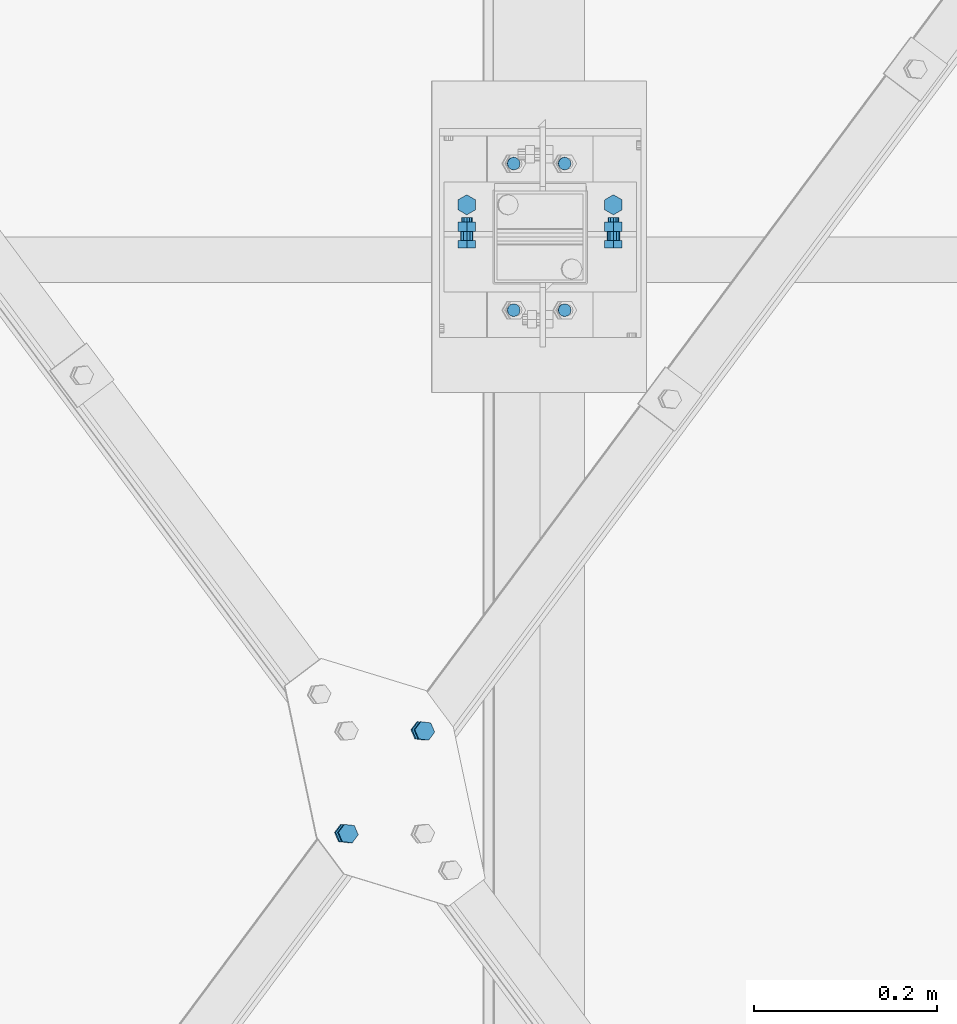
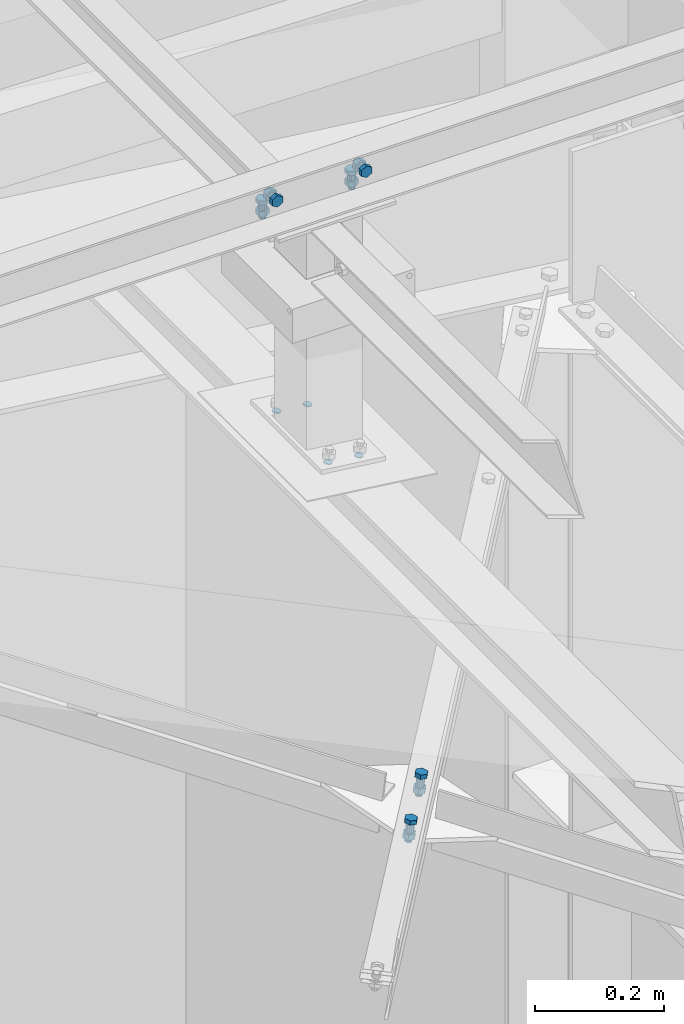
# One storey, part 386 of 3134: 4 mechanical fasteners, 3 elements without a shape of their own.
"""IFC2X3 building model written with IfcOpenShell, lengths in millimetres."""

from ifc_helpers import new_model, si_unit, frame, origin_with_axes, place, context, subcontext, project, spatial, faceted_brep, source, transform, mapped, material, type_object, element, aggregate, save


model = new_model("IFC2X3")

# Units and contexts
model_context = context("Model", 3, precision=1e-05, world=origin_with_axes())
body_context = subcontext(model_context, "Body", "Model", "MODEL_VIEW")
ifc_project = project(units=[si_unit("LENGTHUNIT", "METRE", prefix="MILLI"), si_unit("AREAUNIT", "SQUARE_METRE"), si_unit("VOLUMEUNIT", "CUBIC_METRE"), si_unit("MASSUNIT", "GRAM", prefix="KILO"), si_unit("TIMEUNIT", "SECOND"), si_unit("PLANEANGLEUNIT", "RADIAN"), si_unit("SOLIDANGLEUNIT", "STERADIAN"), si_unit("THERMODYNAMICTEMPERATUREUNIT", "DEGREE_CELSIUS"), si_unit("LUMINOUSINTENSITYUNIT", "LUMEN")], contexts=[model_context])

# Site, building, storey
site_placement = place(None, origin_with_axes())
site = spatial("IfcSite", under=ifc_project, at=site_placement, CompositionType="ELEMENT")
building_placement = place(site_placement, origin_with_axes())
building = spatial("IfcBuilding", under=site, at=building_placement, Name="Undefined", CompositionType="ELEMENT")
storey_placement = place(building_placement, origin_with_axes())
storey = spatial("IfcBuildingStorey", under=building, at=storey_placement, Name="Undefined", CompositionType="ELEMENT", Elevation=0.0)

# Assembly, mechanical fastener
assembly_1_placement = place(storey_placement, origin_with_axes())
assembly_1 = element("IfcElementAssembly", 1, at=assembly_1_placement, inside=storey, AssemblyPlace="NOTDEFINED", PredefinedType="RIGID_FRAME")
ifc_material = material(Name="8.8")
mechanical_fastener_type = type_object("IfcMechanicalFastenerType", Name="Bolt assembly")
shared_shape_1 = source(origin_with_axes(), body_context, "Body", "Brep", [
    faceted_brep([(10.9696551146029, -14.0, 0.0), (5.48482755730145, -14.0, 9.5), (-5.48482755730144, -14.0, 9.5), (-10.9696551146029, -14.0, 1.34339530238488e-15), (-5.48482755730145, -14.0, -9.5), (5.48482755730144, -14.0, -9.50000000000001), (5.48482755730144, -6.0, -9.50000000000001), (-5.48482755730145, -6.0, -9.5), (-10.9696551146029, -6.0, 1.34339530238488e-15), (-5.48482755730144, -6.0, 9.5), (5.48482755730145, -6.0, 9.5), (10.9696551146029, -6.0, 0.0), (6.0, -6.0, 0.0), (5.19615242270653, -6.0, 3.00000000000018), (2.99999999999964, -6.0, 5.19615242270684), (-6.21801588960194e-13, -6.0, 6.0), (-3.00000000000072, -6.0, 5.19615242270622), (-5.19615242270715, -6.0, 2.9999999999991), (-6.0, -6.0, -1.24360317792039e-12), (-5.19615242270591, -6.0, -3.00000000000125), (-2.99999999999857, -6.0, -5.19615242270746), (1.85874342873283e-12, -6.0, -6.0), (3.00000000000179, -6.0, -5.1961524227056), (5.19615242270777, -6.0, -2.99999999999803), (5.19615242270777, 24.0, -2.99999999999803), (3.00000000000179, 24.0, -5.1961524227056), (1.85874342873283e-12, 24.0, -6.0), (-2.99999999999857, 24.0, -5.19615242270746), (-5.19615242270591, 24.0, -3.00000000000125), (-6.0, 24.0, -1.24360317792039e-12), (-5.19615242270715, 24.0, 2.9999999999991), (-3.00000000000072, 24.0, 5.19615242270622), (-6.21801588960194e-13, 24.0, 6.0), (2.99999999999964, 24.0, 5.19615242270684), (5.19615242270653, 24.0, 3.00000000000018), (6.0, 24.0, 0.0), (10.9696551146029, 6.00000000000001, 0.0), (5.48482755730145, 6.00000000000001, 9.5), (-5.48482755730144, 6.00000000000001, 9.5), (-10.9696551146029, 6.00000000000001, 1.34339530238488e-15), (-5.48482755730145, 6.00000000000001, -9.5), (5.48482755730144, 6.00000000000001, -9.50000000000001), (5.48482755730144, 16.0, -9.50000000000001), (-5.48482755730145, 16.0, -9.5), (-10.9696551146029, 16.0, 1.34339530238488e-15), (-5.48482755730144, 16.0, 9.5), (5.48482755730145, 16.0, 9.5), (10.9696551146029, 16.0, 0.0)], [[[0, 1, 2, 3, 4, 5]], [[6, 7, 8, 9, 10, 11]], [[0, 11, 10, 1]], [[1, 10, 9, 2]], [[2, 9, 8, 3]], [[3, 8, 7, 4]], [[4, 7, 6, 5]], [[5, 6, 11, 0]], [[12, 13, 14, 15, 16, 17, 18, 19, 20, 21, 22, 23]], [[24, 25, 26, 27, 28, 29, 30, 31, 32, 33, 34, 35]], [[12, 35, 34, 13]], [[13, 34, 33, 14]], [[14, 33, 32, 15]], [[15, 32, 31, 16]], [[16, 31, 30, 17]], [[17, 30, 29, 18]], [[18, 29, 28, 19]], [[19, 28, 27, 20]], [[20, 27, 26, 21]], [[21, 26, 25, 22]], [[22, 25, 24, 23]], [[23, 24, 35, 12]], [[36, 37, 38, 39, 40, 41]], [[42, 43, 44, 45, 46, 47]], [[36, 47, 46, 37]], [[37, 46, 45, 38]], [[38, 45, 44, 39]], [[39, 44, 43, 40]], [[40, 43, 42, 41]], [[41, 42, 47, 36]]]),
    faceted_brep([(7.0, -0.1, 0.0), (6.06217782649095, -0.1, 3.50000000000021), (3.49999999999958, -0.1, 6.06217782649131), (-7.25435187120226e-13, -0.1, 7.0), (-3.50000000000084, -0.1, 6.06217782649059), (-6.06217782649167, -0.1, 3.49999999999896), (-7.0, -0.1, -1.45087037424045e-12), (-6.06217782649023, -0.1, -3.50000000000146), (-3.49999999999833, -0.1, -6.06217782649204), (2.1685340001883e-12, -0.1, -7.0), (3.50000000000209, -0.1, -6.06217782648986), (6.0621778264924, -0.1, -3.4999999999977), (6.0621778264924, 6.00000000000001, -3.4999999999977), (3.50000000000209, 6.00000000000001, -6.06217782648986), (2.1685340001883e-12, 6.00000000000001, -7.0), (-3.49999999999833, 6.00000000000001, -6.06217782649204), (-6.06217782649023, 6.00000000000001, -3.50000000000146), (-7.0, 6.00000000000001, -1.45087037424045e-12), (-6.06217782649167, 6.00000000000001, 3.49999999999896), (-3.50000000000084, 6.00000000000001, 6.06217782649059), (-7.25435187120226e-13, 6.00000000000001, 7.0), (3.49999999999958, 6.00000000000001, 6.06217782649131), (6.06217782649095, 6.00000000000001, 3.50000000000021), (7.0, 6.00000000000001, 0.0), (7.0, -5.9, 0.0), (6.06217782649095, -5.9, 3.50000000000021), (3.49999999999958, -5.9, 6.06217782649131), (-7.25435187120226e-13, -5.9, 7.0), (-3.50000000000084, -5.9, 6.06217782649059), (-6.06217782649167, -5.9, 3.49999999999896), (-7.0, -5.9, -1.45087037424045e-12), (-6.06217782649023, -5.9, -3.50000000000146), (-3.49999999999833, -5.9, -6.06217782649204), (2.1685340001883e-12, -5.9, -7.0), (3.50000000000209, -5.9, -6.06217782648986), (6.0621778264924, -5.9, -3.4999999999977), (6.0621778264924, 0.0999999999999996, -3.4999999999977), (3.50000000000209, 0.0999999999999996, -6.06217782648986), (2.1685340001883e-12, 0.0999999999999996, -7.0), (-3.49999999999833, 0.0999999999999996, -6.06217782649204), (-6.06217782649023, 0.0999999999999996, -3.50000000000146), (-7.0, 0.0999999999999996, -1.45087037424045e-12), (-6.06217782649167, 0.0999999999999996, 3.49999999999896), (-3.50000000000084, 0.0999999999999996, 6.06217782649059), (-7.25435187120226e-13, 0.0999999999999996, 7.0), (3.49999999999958, 0.0999999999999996, 6.06217782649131), (6.06217782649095, 0.0999999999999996, 3.50000000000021), (7.0, 0.0999999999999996, 0.0)], [[[0, 1, 2, 3, 4, 5, 6, 7, 8, 9, 10, 11]], [[12, 13, 14, 15, 16, 17, 18, 19, 20, 21, 22, 23]], [[0, 23, 22, 1]], [[1, 22, 21, 2]], [[2, 21, 20, 3]], [[3, 20, 19, 4]], [[4, 19, 18, 5]], [[5, 18, 17, 6]], [[6, 17, 16, 7]], [[7, 16, 15, 8]], [[8, 15, 14, 9]], [[9, 14, 13, 10]], [[10, 13, 12, 11]], [[11, 12, 23, 0]], [[24, 25, 26, 27, 28, 29, 30, 31, 32, 33, 34, 35]], [[36, 37, 38, 39, 40, 41, 42, 43, 44, 45, 46, 47]], [[24, 47, 46, 25]], [[25, 46, 45, 26]], [[26, 45, 44, 27]], [[27, 44, 43, 28]], [[28, 43, 42, 29]], [[29, 42, 41, 30]], [[30, 41, 40, 31]], [[31, 40, 39, 32]], [[32, 39, 38, 33]], [[33, 38, 37, 34]], [[34, 37, 36, 35]], [[35, 36, 47, 24]]]),
])
mechanical_fastener_1_placement = place(assembly_1_placement, frame((70902.0, 26580.0, 5850.0), z_axis=(1.0, 0.0, 0.0), x_axis=(0.0, -1.0, 0.0)))
mechanical_fastener_1 = element("IfcMechanicalFastener", 2, at=mechanical_fastener_1_placement, type_object=mechanical_fastener_type, material=ifc_material, Name="Bolt assembly", NominalDiameter=12.0, NominalLength=30.0, context=body_context, shape_type="MappedRepresentation", body=[
    mapped(shared_shape_1, transform((0.0, -5.32963895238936e-10, -79.9999999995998))),
    mapped(shared_shape_1, transform((0.0, 5.3114490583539e-10, 79.9999999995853))),
])

assembly_2_placement = place(storey_placement, origin_with_axes())
assembly_2 = element("IfcElementAssembly", 3, at=assembly_2_placement, inside=storey, AssemblyPlace="NOTDEFINED", PredefinedType="RIGID_FRAME")
shared_shape_2 = source(origin_with_axes(), body_context, "Body", "Brep", [
    faceted_brep([(7.0, 13.0000253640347, 0.0), (6.06217782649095, 13.0000253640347, 3.50000000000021), (3.49999999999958, 13.0000253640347, 6.06217782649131), (-7.25435187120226e-13, 13.0000253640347, 7.0), (-3.50000000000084, 13.0000253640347, 6.06217782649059), (-6.06217782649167, 13.0000253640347, 3.49999999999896), (-7.0, 13.0000253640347, -1.45087037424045e-12), (-6.06217782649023, 13.0000253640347, -3.50000000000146), (-3.49999999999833, 13.0000253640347, -6.06217782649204), (2.1685340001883e-12, 13.0000253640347, -7.0), (3.50000000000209, 13.0000253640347, -6.06217782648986), (6.0621778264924, 13.0000253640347, -3.4999999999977), (6.0621778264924, 15.0999999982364, -3.4999999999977), (3.50000000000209, 15.0999999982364, -6.06217782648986), (2.1685340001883e-12, 15.0999999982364, -7.0), (-3.49999999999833, 15.0999999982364, -6.06217782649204), (-6.06217782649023, 15.0999999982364, -3.50000000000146), (-7.0, 15.0999999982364, -1.45087037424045e-12), (-6.06217782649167, 15.0999999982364, 3.49999999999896), (-3.50000000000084, 15.0999999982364, 6.06217782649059), (-7.25435187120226e-13, 15.0999999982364, 7.0), (3.49999999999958, 15.0999999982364, 6.06217782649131), (6.06217782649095, 15.0999999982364, 3.50000000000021), (7.0, 15.0999999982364, 0.0)], [[[0, 1, 2, 3, 4, 5, 6, 7, 8, 9, 10, 11]], [[12, 13, 14, 15, 16, 17, 18, 19, 20, 21, 22, 23]], [[0, 23, 22, 1]], [[1, 22, 21, 2]], [[2, 21, 20, 3]], [[3, 20, 19, 4]], [[4, 19, 18, 5]], [[5, 18, 17, 6]], [[6, 17, 16, 7]], [[7, 16, 15, 8]], [[8, 15, 14, 9]], [[9, 14, 13, 10]], [[10, 13, 12, 11]], [[11, 12, 23, 0]]]),
])
mechanical_fastener_2_placement = place(assembly_2_placement, frame((70871.4175926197, 26544.9983647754, 5400.15862565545), z_axis=(0.0, -1.0, 0.0), x_axis=(0.992631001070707, 0.0, -0.121176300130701)))
mechanical_fastener_2 = element("IfcMechanicalFastener", 4, at=mechanical_fastener_2_placement, type_object=mechanical_fastener_type, material=ifc_material, Name="Bolt assembly", NominalDiameter=12.0, NominalLength=2.0, context=body_context, shape_type="MappedRepresentation", body=[
    mapped(shared_shape_2, transform((0.0, -5.32963895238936e-10, -79.9999999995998))),
    mapped(shared_shape_2, transform((55.9999999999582, 4.54747350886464e-13, -80.0))),
    mapped(shared_shape_2, transform((0.0, 5.3114490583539e-10, 79.9999999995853))),
    mapped(shared_shape_2, transform((55.9999999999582, 4.54747350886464e-13, 80.0))),
])
aggregate(assembly_2, [mechanical_fastener_2])

# Mechanical fastener
shared_shape_3 = source(origin_with_axes(), body_context, "Body", "Brep", [
    faceted_brep([(10.9696551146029, -12.0, 0.0), (5.48482755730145, -12.0, 9.5), (-5.48482755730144, -12.0, 9.5), (-10.9696551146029, -12.0, 1.34339530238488e-15), (-5.48482755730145, -12.0, -9.5), (5.48482755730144, -12.0, -9.50000000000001), (5.48482755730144, -4.0, -9.50000000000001), (-5.48482755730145, -4.0, -9.5), (-10.9696551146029, -4.0, 1.34339530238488e-15), (-5.48482755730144, -4.0, 9.5), (5.48482755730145, -4.0, 9.5), (10.9696551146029, -4.0, 0.0), (6.0, -4.0, 0.0), (5.19615242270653, -4.0, 3.00000000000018), (2.99999999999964, -4.0, 5.19615242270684), (-6.21801588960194e-13, -4.0, 6.0), (-3.00000000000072, -4.0, 5.19615242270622), (-5.19615242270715, -4.0, 2.9999999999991), (-6.0, -4.0, -1.24360317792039e-12), (-5.19615242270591, -4.0, -3.00000000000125), (-2.99999999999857, -4.0, -5.19615242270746), (1.85874342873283e-12, -4.0, -6.0), (3.00000000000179, -4.0, -5.1961524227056), (5.19615242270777, -4.0, -2.99999999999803), (5.19615242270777, 21.0, -2.99999999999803), (3.00000000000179, 21.0, -5.1961524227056), (1.85874342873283e-12, 21.0, -6.0), (-2.99999999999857, 21.0, -5.19615242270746), (-5.19615242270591, 21.0, -3.00000000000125), (-6.0, 21.0, -1.24360317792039e-12), (-5.19615242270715, 21.0, 2.9999999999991), (-3.00000000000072, 21.0, 5.19615242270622), (-6.21801588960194e-13, 21.0, 6.0), (2.99999999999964, 21.0, 5.19615242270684), (5.19615242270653, 21.0, 3.00000000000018), (6.0, 21.0, 0.0), (10.9696551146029, 6.00000000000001, 0.0), (5.48482755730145, 6.00000000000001, 9.5), (-5.48482755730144, 6.00000000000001, 9.5), (-10.9696551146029, 6.00000000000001, 1.34339530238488e-15), (-5.48482755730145, 6.00000000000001, -9.5), (5.48482755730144, 6.00000000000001, -9.50000000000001), (5.48482755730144, 16.0, -9.50000000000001), (-5.48482755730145, 16.0, -9.5), (-10.9696551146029, 16.0, 1.34339530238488e-15), (-5.48482755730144, 16.0, 9.5), (5.48482755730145, 16.0, 9.5), (10.9696551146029, 16.0, 0.0)], [[[0, 1, 2, 3, 4, 5]], [[6, 7, 8, 9, 10, 11]], [[0, 11, 10, 1]], [[1, 10, 9, 2]], [[2, 9, 8, 3]], [[3, 8, 7, 4]], [[4, 7, 6, 5]], [[5, 6, 11, 0]], [[12, 13, 14, 15, 16, 17, 18, 19, 20, 21, 22, 23]], [[24, 25, 26, 27, 28, 29, 30, 31, 32, 33, 34, 35]], [[12, 35, 34, 13]], [[13, 34, 33, 14]], [[14, 33, 32, 15]], [[15, 32, 31, 16]], [[16, 31, 30, 17]], [[17, 30, 29, 18]], [[18, 29, 28, 19]], [[19, 28, 27, 20]], [[20, 27, 26, 21]], [[21, 26, 25, 22]], [[22, 25, 24, 23]], [[23, 24, 35, 12]], [[36, 37, 38, 39, 40, 41]], [[42, 43, 44, 45, 46, 47]], [[36, 47, 46, 37]], [[37, 46, 45, 38]], [[38, 45, 44, 39]], [[39, 44, 43, 40]], [[40, 43, 42, 41]], [[41, 42, 47, 36]]]),
    faceted_brep([(7.0, -3.9, 0.0), (6.06217782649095, -3.9, 3.50000000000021), (3.49999999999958, -3.9, 6.06217782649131), (-7.25435187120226e-13, -3.9, 7.0), (-3.50000000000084, -3.9, 6.06217782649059), (-6.06217782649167, -3.9, 3.49999999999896), (-7.0, -3.9, -1.45087037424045e-12), (-6.06217782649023, -3.9, -3.50000000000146), (-3.49999999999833, -3.9, -6.06217782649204), (2.1685340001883e-12, -3.9, -7.0), (3.50000000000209, -3.9, -6.06217782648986), (6.0621778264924, -3.9, -3.4999999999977), (6.0621778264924, 0.0999999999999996, -3.4999999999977), (3.50000000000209, 0.0999999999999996, -6.06217782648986), (2.1685340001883e-12, 0.0999999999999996, -7.0), (-3.49999999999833, 0.0999999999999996, -6.06217782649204), (-6.06217782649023, 0.0999999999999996, -3.50000000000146), (-7.0, 0.0999999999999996, -1.45087037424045e-12), (-6.06217782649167, 0.0999999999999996, 3.49999999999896), (-3.50000000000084, 0.0999999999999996, 6.06217782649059), (-7.25435187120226e-13, 0.0999999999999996, 7.0), (3.49999999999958, 0.0999999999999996, 6.06217782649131), (6.06217782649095, 0.0999999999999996, 3.50000000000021), (7.0, 0.0999999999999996, 0.0), (7.0, -0.1, 0.0), (6.06217782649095, -0.1, 3.50000000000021), (3.49999999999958, -0.1, 6.06217782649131), (-7.25435187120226e-13, -0.1, 7.0), (-3.50000000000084, -0.1, 6.06217782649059), (-6.06217782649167, -0.1, 3.49999999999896), (-7.0, -0.1, -1.45087037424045e-12), (-6.06217782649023, -0.1, -3.50000000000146), (-3.49999999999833, -0.1, -6.06217782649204), (2.1685340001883e-12, -0.1, -7.0), (3.50000000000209, -0.1, -6.06217782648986), (6.0621778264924, -0.1, -3.4999999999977), (6.0621778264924, 6.00000000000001, -3.4999999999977), (3.50000000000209, 6.00000000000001, -6.06217782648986), (2.1685340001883e-12, 6.00000000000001, -7.0), (-3.49999999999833, 6.00000000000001, -6.06217782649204), (-6.06217782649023, 6.00000000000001, -3.50000000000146), (-7.0, 6.00000000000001, -1.45087037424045e-12), (-6.06217782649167, 6.00000000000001, 3.49999999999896), (-3.50000000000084, 6.00000000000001, 6.06217782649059), (-7.25435187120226e-13, 6.00000000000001, 7.0), (3.49999999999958, 6.00000000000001, 6.06217782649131), (6.06217782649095, 6.00000000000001, 3.50000000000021), (7.0, 6.00000000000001, 0.0)], [[[0, 1, 2, 3, 4, 5, 6, 7, 8, 9, 10, 11]], [[12, 13, 14, 15, 16, 17, 18, 19, 20, 21, 22, 23]], [[0, 23, 22, 1]], [[1, 22, 21, 2]], [[2, 21, 20, 3]], [[3, 20, 19, 4]], [[4, 19, 18, 5]], [[5, 18, 17, 6]], [[6, 17, 16, 7]], [[7, 16, 15, 8]], [[8, 15, 14, 9]], [[9, 14, 13, 10]], [[10, 13, 12, 11]], [[11, 12, 23, 0]], [[24, 25, 26, 27, 28, 29, 30, 31, 32, 33, 34, 35]], [[36, 37, 38, 39, 40, 41, 42, 43, 44, 45, 46, 47]], [[24, 47, 46, 25]], [[25, 46, 45, 26]], [[26, 45, 44, 27]], [[27, 44, 43, 28]], [[28, 43, 42, 29]], [[29, 42, 41, 30]], [[30, 41, 40, 31]], [[31, 40, 39, 32]], [[32, 39, 38, 33]], [[33, 38, 37, 34]], [[34, 37, 36, 35]], [[35, 36, 47, 24]]]),
])
mechanical_fastener_3_placement = place(assembly_1_placement, frame((70902.0, 26545.0, 5885.0), z_axis=(1.0, 0.0, 0.0), x_axis=(0.0, 0.0, -1.0)))
mechanical_fastener_3 = element("IfcMechanicalFastener", 5, at=mechanical_fastener_3_placement, type_object=mechanical_fastener_type, material=ifc_material, Name="Bolt assembly", NominalDiameter=12.0, NominalLength=25.0, context=body_context, shape_type="MappedRepresentation", body=[
    mapped(shared_shape_3, transform((0.0, -5.32963895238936e-10, -79.9999999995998))),
    mapped(shared_shape_3, transform((0.0, 5.3114490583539e-10, 79.9999999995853))),
])

aggregate(assembly_1, [mechanical_fastener_3, mechanical_fastener_1])

# Assembly, mechanical fastener
assembly_3_placement = place(storey_placement, origin_with_axes())
assembly_3 = element("IfcElementAssembly", 6, at=assembly_3_placement, inside=storey, AssemblyPlace="NOTDEFINED", PredefinedType="RIGID_FRAME")
shared_shape_4 = source(origin_with_axes(), body_context, "Body", "Brep", [
    faceted_brep([(10.9696551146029, -17.0000000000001, 0.0), (5.48482755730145, -17.0000000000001, 9.5), (-5.48482755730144, -17.0000000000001, 9.5), (-10.9696551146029, -17.0000000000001, 1.34339530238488e-15), (-5.48482755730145, -17.0000000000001, -9.5), (5.48482755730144, -17.0000000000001, -9.50000000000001), (5.48482755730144, -9.00000000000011, -9.50000000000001), (-5.48482755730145, -9.00000000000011, -9.5), (-10.9696551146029, -9.00000000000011, 1.34339530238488e-15), (-5.48482755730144, -9.00000000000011, 9.5), (5.48482755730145, -9.00000000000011, 9.5), (10.9696551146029, -9.00000000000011, 0.0), (6.0, -9.00000000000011, 0.0), (5.19615242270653, -9.00000000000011, 3.00000000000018), (2.99999999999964, -9.00000000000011, 5.19615242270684), (-6.21801588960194e-13, -9.00000000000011, 6.0), (-3.00000000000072, -9.00000000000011, 5.19615242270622), (-5.19615242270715, -9.00000000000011, 2.9999999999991), (-6.0, -9.00000000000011, -1.24360317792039e-12), (-5.19615242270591, -9.00000000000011, -3.00000000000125), (-2.99999999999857, -9.00000000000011, -5.19615242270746), (1.85874342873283e-12, -9.00000000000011, -6.0), (3.00000000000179, -9.00000000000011, -5.1961524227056), (5.19615242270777, -9.00000000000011, -2.99999999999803), (5.19615242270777, 26.0, -2.99999999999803), (3.00000000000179, 26.0, -5.1961524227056), (1.85874342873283e-12, 26.0, -6.0), (-2.99999999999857, 26.0, -5.19615242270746), (-5.19615242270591, 26.0, -3.00000000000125), (-6.0, 26.0, -1.24360317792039e-12), (-5.19615242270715, 26.0, 2.9999999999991), (-3.00000000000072, 26.0, 5.19615242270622), (-6.21801588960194e-13, 26.0, 6.0), (2.99999999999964, 26.0, 5.19615242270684), (5.19615242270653, 26.0, 3.00000000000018), (6.0, 26.0, 0.0), (10.9696551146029, 9.00000000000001, 0.0), (5.48482755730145, 9.00000000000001, 9.5), (-5.48482755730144, 9.00000000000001, 9.5), (-10.9696551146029, 9.00000000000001, 1.34339530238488e-15), (-5.48482755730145, 9.00000000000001, -9.5), (5.48482755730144, 9.00000000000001, -9.50000000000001), (5.48482755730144, 19.0, -9.50000000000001), (-5.48482755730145, 19.0, -9.5), (-10.9696551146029, 19.0, 1.34339530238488e-15), (-5.48482755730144, 19.0, 9.5), (5.48482755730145, 19.0, 9.5), (10.9696551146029, 19.0, 0.0)], [[[0, 1, 2, 3, 4, 5]], [[6, 7, 8, 9, 10, 11]], [[0, 11, 10, 1]], [[1, 10, 9, 2]], [[2, 9, 8, 3]], [[3, 8, 7, 4]], [[4, 7, 6, 5]], [[5, 6, 11, 0]], [[12, 13, 14, 15, 16, 17, 18, 19, 20, 21, 22, 23]], [[24, 25, 26, 27, 28, 29, 30, 31, 32, 33, 34, 35]], [[12, 35, 34, 13]], [[13, 34, 33, 14]], [[14, 33, 32, 15]], [[15, 32, 31, 16]], [[16, 31, 30, 17]], [[17, 30, 29, 18]], [[18, 29, 28, 19]], [[19, 28, 27, 20]], [[20, 27, 26, 21]], [[21, 26, 25, 22]], [[22, 25, 24, 23]], [[23, 24, 35, 12]], [[36, 37, 38, 39, 40, 41]], [[42, 43, 44, 45, 46, 47]], [[36, 47, 46, 37]], [[37, 46, 45, 38]], [[38, 45, 44, 39]], [[39, 44, 43, 40]], [[40, 43, 42, 41]], [[41, 42, 47, 36]]]),
    faceted_brep([(7.0, 3.89999713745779, 0.0), (6.06217782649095, 3.89999713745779, 3.50000000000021), (3.49999999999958, 3.89999713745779, 6.06217782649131), (-7.25435187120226e-13, 3.89999713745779, 7.0), (-3.50000000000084, 3.89999713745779, 6.06217782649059), (-6.06217782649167, 3.89999713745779, 3.49999999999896), (-7.0, 3.89999713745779, -1.45087037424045e-12), (-6.06217782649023, 3.89999713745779, -3.50000000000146), (-3.49999999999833, 3.89999713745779, -6.06217782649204), (2.1685340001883e-12, 3.89999713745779, -7.0), (3.50000000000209, 3.89999713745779, -6.06217782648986), (6.0621778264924, 3.89999713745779, -3.4999999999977), (6.0621778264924, 9.00000000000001, -3.4999999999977), (3.50000000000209, 9.00000000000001, -6.06217782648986), (2.1685340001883e-12, 9.00000000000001, -7.0), (-3.49999999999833, 9.00000000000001, -6.06217782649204), (-6.06217782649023, 9.00000000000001, -3.50000000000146), (-7.0, 9.00000000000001, -1.45087037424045e-12), (-6.06217782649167, 9.00000000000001, 3.49999999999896), (-3.50000000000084, 9.00000000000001, 6.06217782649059), (-7.25435187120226e-13, 9.00000000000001, 7.0), (3.49999999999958, 9.00000000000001, 6.06217782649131), (6.06217782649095, 9.00000000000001, 3.50000000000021), (7.0, 9.00000000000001, 0.0), (7.0, -8.90000000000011, 0.0), (6.06217782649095, -8.90000000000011, 3.50000000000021), (3.49999999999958, -8.90000000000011, 6.06217782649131), (-7.25435187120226e-13, -8.90000000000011, 7.0), (-3.50000000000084, -8.90000000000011, 6.06217782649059), (-6.06217782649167, -8.90000000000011, 3.49999999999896), (-7.0, -8.90000000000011, -1.45087037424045e-12), (-6.06217782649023, -8.90000000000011, -3.50000000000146), (-3.49999999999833, -8.90000000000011, -6.06217782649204), (2.1685340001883e-12, -8.90000000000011, -7.0), (3.50000000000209, -8.90000000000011, -6.06217782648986), (6.0621778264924, -8.90000000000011, -3.4999999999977), (6.0621778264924, -3.9, -3.4999999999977), (3.50000000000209, -3.9, -6.06217782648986), (2.1685340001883e-12, -3.9, -7.0), (-3.49999999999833, -3.9, -6.06217782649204), (-6.06217782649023, -3.9, -3.50000000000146), (-7.0, -3.9, -1.45087037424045e-12), (-6.06217782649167, -3.9, 3.49999999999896), (-3.50000000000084, -3.9, 6.06217782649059), (-7.25435187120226e-13, -3.9, 7.0), (3.49999999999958, -3.9, 6.06217782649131), (6.06217782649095, -3.9, 3.50000000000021), (7.0, -3.9, 0.0), (7.0, -4.00000018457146, 0.0), (6.06217782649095, -4.00000018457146, 3.50000000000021), (3.49999999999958, -4.00000018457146, 6.06217782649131), (-7.25435187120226e-13, -4.00000018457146, 7.0), (-3.50000000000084, -4.00000018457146, 6.06217782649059), (-6.06217782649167, -4.00000018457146, 3.49999999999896), (-7.0, -4.00000018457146, -1.45087037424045e-12), (-6.06217782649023, -4.00000018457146, -3.50000000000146), (-3.49999999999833, -4.00000018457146, -6.06217782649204), (2.1685340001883e-12, -4.00000018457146, -7.0), (3.50000000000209, -4.00000018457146, -6.06217782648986), (6.0621778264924, -4.00000018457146, -3.4999999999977), (6.0621778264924, 4.00000000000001, -3.4999999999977), (3.50000000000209, 4.00000000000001, -6.06217782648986), (2.1685340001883e-12, 4.00000000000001, -7.0), (-3.49999999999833, 4.00000000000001, -6.06217782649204), (-6.06217782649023, 4.00000000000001, -3.50000000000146), (-7.0, 4.00000000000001, -1.45087037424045e-12), (-6.06217782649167, 4.00000000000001, 3.49999999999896), (-3.50000000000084, 4.00000000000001, 6.06217782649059), (-7.25435187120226e-13, 4.00000000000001, 7.0), (3.49999999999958, 4.00000000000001, 6.06217782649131), (6.06217782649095, 4.00000000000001, 3.50000000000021), (7.0, 4.00000000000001, 0.0)], [[[0, 1, 2, 3, 4, 5, 6, 7, 8, 9, 10, 11]], [[12, 13, 14, 15, 16, 17, 18, 19, 20, 21, 22, 23]], [[0, 23, 22, 1]], [[1, 22, 21, 2]], [[2, 21, 20, 3]], [[3, 20, 19, 4]], [[4, 19, 18, 5]], [[5, 18, 17, 6]], [[6, 17, 16, 7]], [[7, 16, 15, 8]], [[8, 15, 14, 9]], [[9, 14, 13, 10]], [[10, 13, 12, 11]], [[11, 12, 23, 0]], [[24, 25, 26, 27, 28, 29, 30, 31, 32, 33, 34, 35]], [[36, 37, 38, 39, 40, 41, 42, 43, 44, 45, 46, 47]], [[24, 47, 46, 25]], [[25, 46, 45, 26]], [[26, 45, 44, 27]], [[27, 44, 43, 28]], [[28, 43, 42, 29]], [[29, 42, 41, 30]], [[30, 41, 40, 31]], [[31, 40, 39, 32]], [[32, 39, 38, 33]], [[33, 38, 37, 34]], [[34, 37, 36, 35]], [[35, 36, 47, 24]], [[48, 49, 50, 51, 52, 53, 54, 55, 56, 57, 58, 59]], [[60, 61, 62, 63, 64, 65, 66, 67, 68, 69, 70, 71]], [[48, 71, 70, 49]], [[49, 70, 69, 50]], [[50, 69, 68, 51]], [[51, 68, 67, 52]], [[52, 67, 66, 53]], [[53, 66, 65, 54]], [[54, 65, 64, 55]], [[55, 64, 63, 56]], [[56, 63, 62, 57]], [[57, 62, 61, 58]], [[58, 61, 60, 59]], [[59, 60, 71, 48]]]),
])
mechanical_fastener_4_placement = place(assembly_3_placement, frame((70690.7664275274, 25893.9926128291, 5132.1457064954), z_axis=(-0.794204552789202, 0.599857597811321, 0.0970051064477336), x_axis=(0.595432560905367, 0.80010678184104, -0.0727269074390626)))
mechanical_fastener_4 = element("IfcMechanicalFastener", 7, at=mechanical_fastener_4_placement, type_object=mechanical_fastener_type, material=ifc_material, Name="Bolt assembly", NominalDiameter=12.0, NominalLength=35.0, context=body_context, shape_type="MappedRepresentation", body=[
    mapped(shared_shape_4, transform((0.0, 0.0, 0.0))),
    mapped(shared_shape_4, transform((140.0, 0.0, 0.0))),
])
aggregate(assembly_3, [mechanical_fastener_4])

save(model, "model.ifc")
